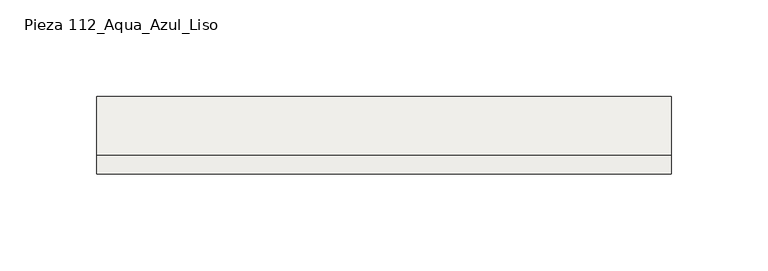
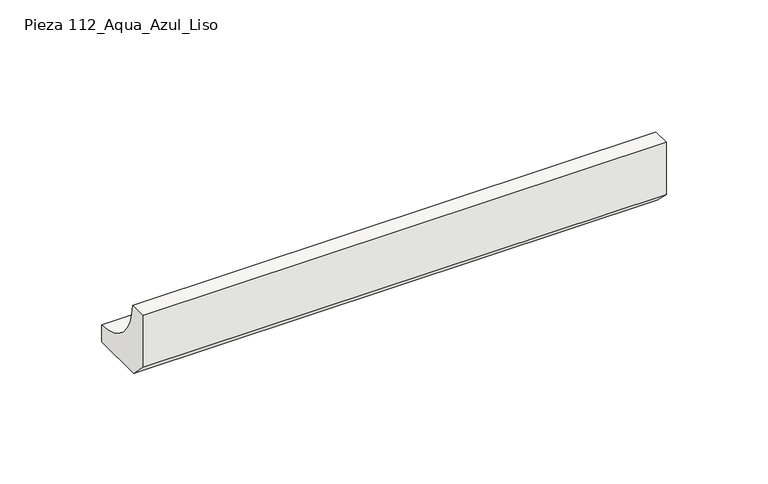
"""IFC4 building model written with IfcOpenShell, lengths in millimetres: slab geometry, ROSA GRES_112 : Pieza 112_Aqua_Azul_Liso."""

from ifc_helpers import new_model, si_unit, point, frame, frame_2d, origin, place, context, project, spatial, polyline, circle_curve, trimmed, segment, composite_curve, outline, extrude, source, transform, mapped, element, save


def pieza_112_aqua_azul_liso_121d36f7(model_context):
    return source(origin(), model_context, "Body", "SweptSolid", [
        extrude(outline(composite_curve([segment(polyline([(0.0, 8.7114978), (0.0, 40.0), (9.9734114, 40.0)]), True, "CONTINUOUS"), segment(trimmed(circle_curve(frame_2d((39.9955547, 39.9955547)), 30.0221435), [point((9.9734114, 40.0))], [point((40.0, 9.9734114))], True, "CARTESIAN"), True, "CONTINUOUS"), segment(polyline([(40.0, 9.9734114), (40.0, 0.0), (8.7114978, 0.0), (0.0, 8.7114978)]), True, "CONTINUOUS")], self_intersect=False)), frame((0.0, 0.0, 0.0), z_axis=(1.0, 0.0, 0.0), x_axis=(0.0, 1.0, 0.0)), (0.0, 0.0, 1.0), 296.5),
    ])


if __name__ == "__main__":
    model = new_model("IFC4")
    model_context = context("Model", 3, world=origin())
    ifc_project = project(units=[si_unit("LENGTHUNIT", "METRE", prefix="MILLI")], contexts=[model_context])
    site = spatial("IfcSite", under=ifc_project)
    building = spatial("IfcBuilding", under=site)
    placement = place(None, origin())
    pieza_112_aqua_azul_liso_shape = pieza_112_aqua_azul_liso_121d36f7(model_context)
    element("IfcSlab", 1, ObjectType="ROSA GRES_112 : Pieza 112_Aqua_Azul_Liso", at=placement, inside=building, context=model_context, shape_type="MappedRepresentation", body=[
        mapped(pieza_112_aqua_azul_liso_shape, transform((0.0, 0.0, 0.0), x_axis=(1.0, 0.0, 0.0), y_axis=(0.0, 1.0, 0.0), z_axis=(0.0, 0.0, 1.0))),
    ])
    save(model, "model.ifc")
